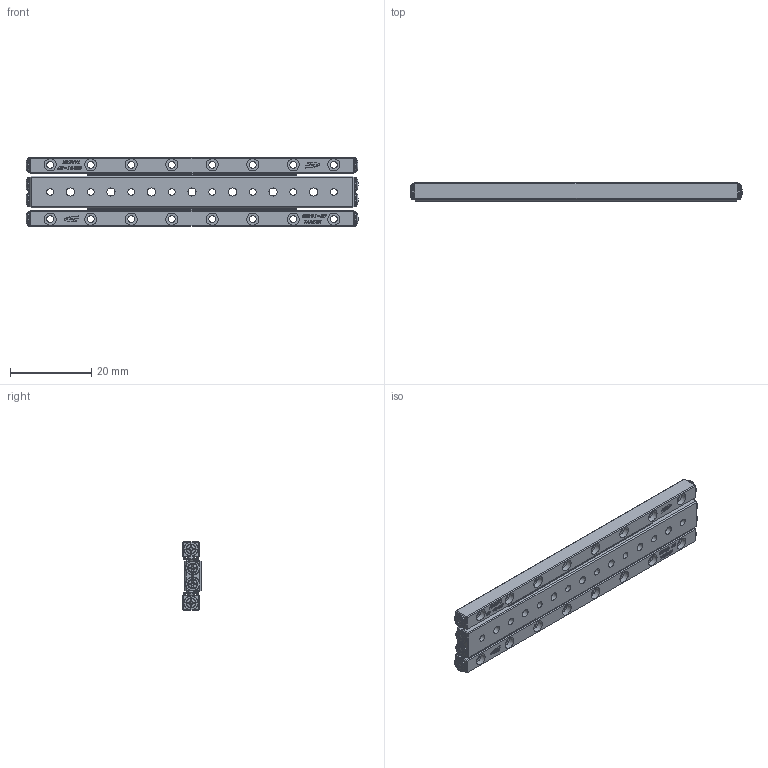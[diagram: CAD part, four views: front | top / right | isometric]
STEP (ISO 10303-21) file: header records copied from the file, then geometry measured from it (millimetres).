
FILE_DESCRIPTION (( 'STEP AP203' ), '1' );
FILE_NAME ('GBD01-80.STEP', '2023-08-14T03:35:12', ( '' ), ( '' ), 'SwSTEP 2.0', 'SolidWorks 2019', '' );
FILE_SCHEMA (( 'CONFIG_CONTROL_DESIGN' ));
Length unit declared in the file: millimetre
Products named in the file (4): GBV01-80-模糊化軌道; GBD01-80-模糊化中軌; GBV01-80-模糊化保持器組; GBD01-80
Assembly tree (5 placements, depth 2):
  GBD01-80
    GBD01-80-模糊化中軌
    GBV01-80-模糊化軌道  x2
    GBV01-80-模糊化保持器組  x2
Bounding box: 81.96 x 4.5 x 17 mm (x, y, z)
Volume: 4410.6 mm3; surface area: 6521.8 mm2
Topology: 5 solids, 13 shells, 1683 faces, 4261 edges, 2778 vertices
Faces by surface type: plane 1148, bspline 274, cylinder 81, cone 80, sphere 76, torus 24
Full cylindrical faces by diameter (mm): 1.4 x8, 1.7 x24, 2 x7, 2.5 x8, 3 x24, 3.5 x8
Entity records: 37076 total; most frequent: CARTESIAN_POINT 12579, ORIENTED_EDGE 5128, DIRECTION 4308, EDGE_CURVE 2564, LINE 1750, VECTOR 1750, VERTEX_POINT 1706, EDGE_LOOP 1306
